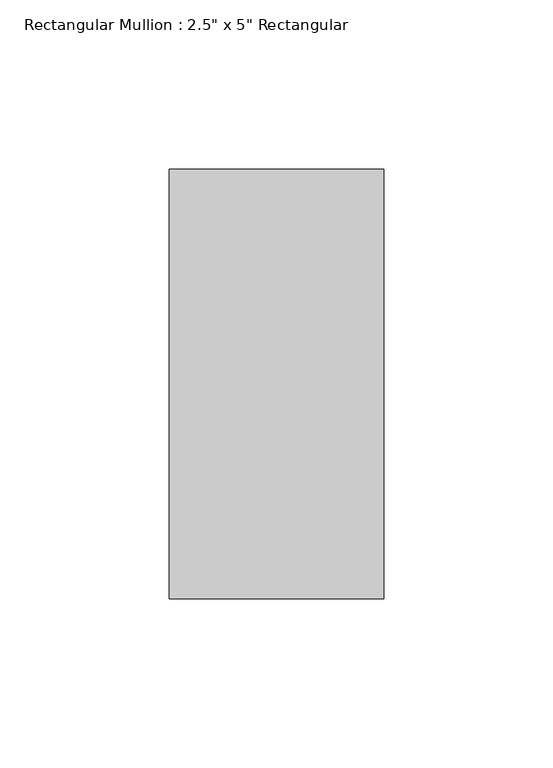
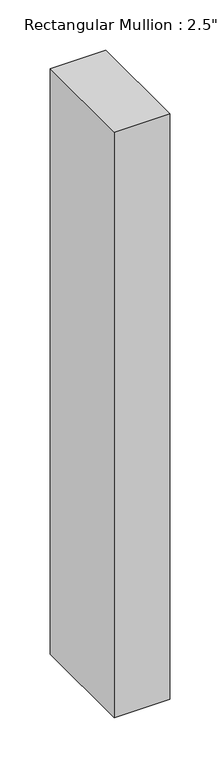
"""IFC4 building model written with IfcOpenShell, lengths in millimetres: member geometry."""

from ifc_helpers import new_model, si_unit, frame, origin, place, context, project, spatial, polyline, outline, extrude, source, transform, mapped, element, save


def member_3ca69e07(model_context):
    return source(origin(), model_context, "Body", "SweptSolid", [
        extrude(outline(polyline([(31.75, 63.5), (31.75, -63.5), (-31.75, -63.5), (-31.75, 63.5), (31.75, 63.5)])), frame((0.0, 0.0, -710.5), z_axis=(0.0, 0.0, 1.0), x_axis=(1.0, 0.0, 0.0)), (0.0, 0.0, 1.0), 710.5),
    ])


if __name__ == "__main__":
    model = new_model("IFC4")
    model_context = context("Model", 3, world=origin())
    ifc_project = project(units=[si_unit("LENGTHUNIT", "METRE", prefix="MILLI")], contexts=[model_context])
    site = spatial("IfcSite", under=ifc_project)
    building = spatial("IfcBuilding", under=site)
    placement = place(None, origin())
    member_shape = member_3ca69e07(model_context)
    element("IfcMember", 1, ObjectType="Rectangular Mullion : 2.5\" x 5\" Rectangular", at=placement, inside=building, context=model_context, shape_type="MappedRepresentation", body=[
        mapped(member_shape, transform((0.0, 0.0, 0.0), x_axis=(1.0, 0.0, 0.0), y_axis=(0.0, 1.0, 0.0), z_axis=(0.0, 0.0, 1.0))),
    ])
    save(model, "model.ifc")
